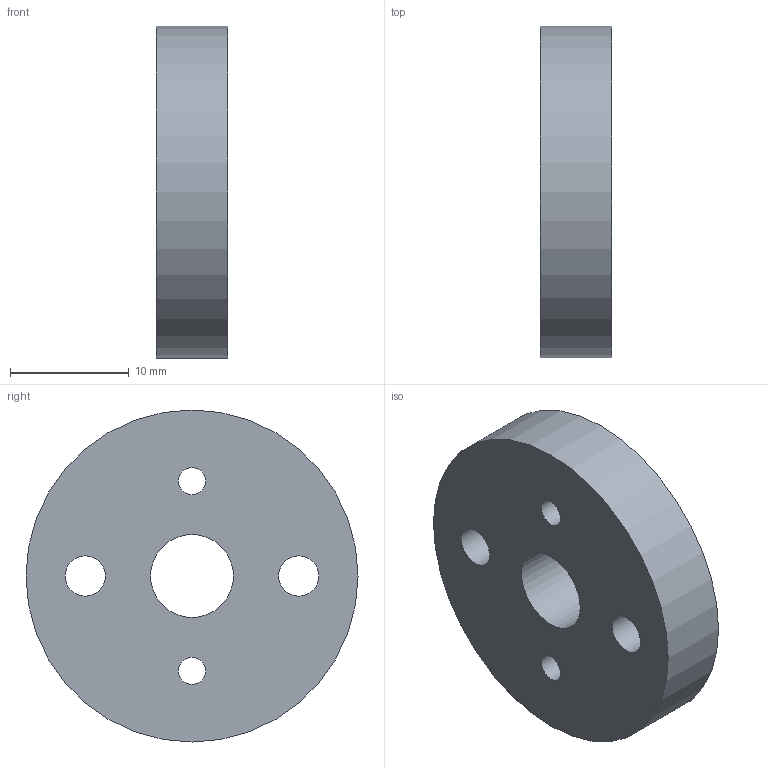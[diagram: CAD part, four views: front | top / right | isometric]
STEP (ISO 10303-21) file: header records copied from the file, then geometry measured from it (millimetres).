
FILE_DESCRIPTION(('FreeCAD Model'),'2;1');
FILE_NAME('Open CASCADE Shape Model','2026-11-07T00:59:45',('FreeCAD'),( 'FreeCAD'),'Open CASCADE STEP processor 7.8','FreeCAD','Unknown');
FILE_SCHEMA(('AUTOMOTIVE_DESIGN { 1 0 10303 214 1 1 1 1 }'));
Length unit declared in the file: millimetre
Products named in the file (1): Open CASCADE STEP translator 7.8 9
Bounding box: 6 x 28 x 28 mm (x, y, z)
Volume: 3304.8 mm3; surface area: 1976.2 mm2
Topology: 1 solids, 1 shells, 8 faces, 18 edges, 12 vertices
Faces by surface type: cylinder 6, plane 2
Full cylindrical faces by diameter (mm): 2.3 x2, 3.4 x2, 7 x1, 28 x1
Entity records: 264 total; most frequent: DIRECTION 48, CARTESIAN_POINT 39, ORIENTED_EDGE 36, AXIS2_PLACEMENT_3D 21, FACE_BOUND 18, EDGE_LOOP 18, EDGE_CURVE 18, VERTEX_POINT 12
